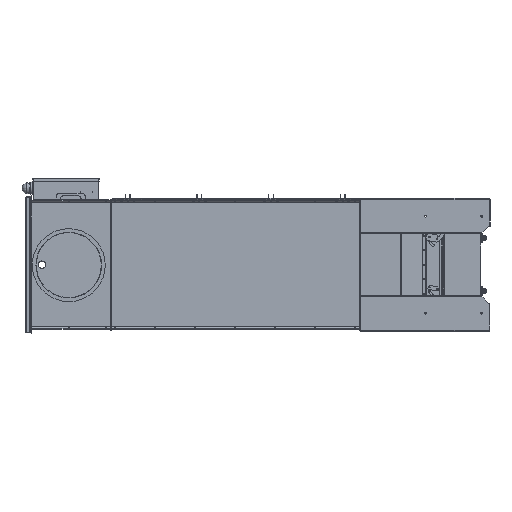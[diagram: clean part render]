
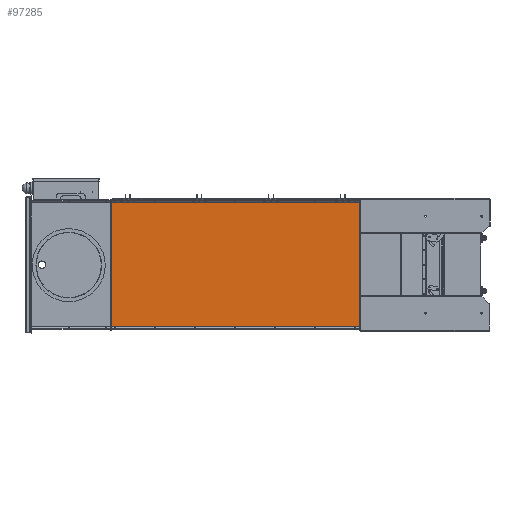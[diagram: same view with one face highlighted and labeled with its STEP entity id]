
A CAD part, left-side view. The second image highlights one B-rep face of the part: STEP entity #97285.
In plain terms, the highlighted planar face has unit normal (-1, 0, 0).
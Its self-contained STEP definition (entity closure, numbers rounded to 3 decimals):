
#3011=PLANE('',#103394);
#6805=FACE_OUTER_BOUND('',#12224,.T.);
#12224=EDGE_LOOP('',(#69337,#69338,#69339,#69340,#69341,#69342,#69343,#69344,
#69345,#69346,#69347,#69348));
#22960=LINE('',#147167,#32189);
#22964=LINE('',#147175,#32193);
#22978=LINE('',#147206,#32207);
#22994=LINE('',#147238,#32223);
#23007=LINE('',#147273,#32236);
#23008=LINE('',#147276,#32237);
#23009=LINE('',#147278,#32238);
#23010=LINE('',#147280,#32239);
#23011=LINE('',#147282,#32240);
#23012=LINE('',#147284,#32241);
#23013=LINE('',#147286,#32242);
#23014=LINE('',#147287,#32243);
#32189=VECTOR('',#115745,1000.);
#32193=VECTOR('',#115753,1000.);
#32207=VECTOR('',#115779,1000.);
#32223=VECTOR('',#115809,1000.);
#32236=VECTOR('',#115842,1000.);
#32237=VECTOR('',#115847,1000.);
#32238=VECTOR('',#115848,1000.);
#32239=VECTOR('',#115849,1000.);
#32240=VECTOR('',#115850,1000.);
#32241=VECTOR('',#115851,1000.);
#32242=VECTOR('',#115852,1000.);
#32243=VECTOR('',#115853,1000.);
#42272=VERTEX_POINT('',#147152);
#42279=VERTEX_POINT('',#147165);
#42281=VERTEX_POINT('',#147174);
#42292=VERTEX_POINT('',#147205);
#42301=VERTEX_POINT('',#147233);
#42312=VERTEX_POINT('',#147270);
#42313=VERTEX_POINT('',#147272);
#42314=VERTEX_POINT('',#147277);
#42315=VERTEX_POINT('',#147279);
#42316=VERTEX_POINT('',#147281);
#42317=VERTEX_POINT('',#147283);
#42318=VERTEX_POINT('',#147285);
#52657=EDGE_CURVE('',#42272,#42279,#22960,.T.);
#52661=EDGE_CURVE('',#42281,#42272,#22964,.T.);
#52677=EDGE_CURVE('',#42281,#42292,#22978,.T.);
#52695=EDGE_CURVE('',#42301,#42292,#22994,.T.);
#52712=EDGE_CURVE('',#42312,#42313,#23007,.F.);
#52714=EDGE_CURVE('',#42312,#42301,#23008,.T.);
#52715=EDGE_CURVE('',#42314,#42279,#23009,.F.);
#52716=EDGE_CURVE('',#42314,#42315,#23010,.T.);
#52717=EDGE_CURVE('',#42315,#42316,#23011,.T.);
#52718=EDGE_CURVE('',#42317,#42316,#23012,.T.);
#52719=EDGE_CURVE('',#42317,#42318,#23013,.T.);
#52720=EDGE_CURVE('',#42318,#42313,#23014,.T.);
#69337=ORIENTED_EDGE('',*,*,#52712,.F.);
#69338=ORIENTED_EDGE('',*,*,#52714,.T.);
#69339=ORIENTED_EDGE('',*,*,#52695,.T.);
#69340=ORIENTED_EDGE('',*,*,#52677,.F.);
#69341=ORIENTED_EDGE('',*,*,#52661,.T.);
#69342=ORIENTED_EDGE('',*,*,#52657,.T.);
#69343=ORIENTED_EDGE('',*,*,#52715,.F.);
#69344=ORIENTED_EDGE('',*,*,#52716,.T.);
#69345=ORIENTED_EDGE('',*,*,#52717,.T.);
#69346=ORIENTED_EDGE('',*,*,#52718,.F.);
#69347=ORIENTED_EDGE('',*,*,#52719,.T.);
#69348=ORIENTED_EDGE('',*,*,#52720,.T.);
#97285=ADVANCED_FACE('',(#6805),#3011,.T.);
#103394=AXIS2_PLACEMENT_3D('',#147275,#115845,#115846);
#115745=DIRECTION('',(0.,0.,1.));
#115753=DIRECTION('',(0.,1.,0.));
#115779=DIRECTION('',(0.,0.,-1.));
#115809=DIRECTION('',(0.,-1.,0.));
#115842=DIRECTION('',(0.,-1.,0.));
#115845=DIRECTION('center_axis',(-1.,0.,0.));
#115846=DIRECTION('ref_axis',(0.,1.,0.));
#115847=DIRECTION('',(0.,0.,1.));
#115848=DIRECTION('',(0.,1.,0.));
#115849=DIRECTION('',(0.,0.,-1.));
#115850=DIRECTION('',(0.,1.,0.));
#115851=DIRECTION('',(0.,0.,1.));
#115852=DIRECTION('',(0.,-1.,0.));
#115853=DIRECTION('',(0.,0.,-1.));
#147152=CARTESIAN_POINT('',(-449.616,629.062,297.156));
#147165=CARTESIAN_POINT('',(-449.616,629.062,297.469));
#147167=CARTESIAN_POINT('',(-449.616,629.062,-190.021));
#147174=CARTESIAN_POINT('',(-449.616,628.75,297.156));
#147175=CARTESIAN_POINT('',(-449.616,625.937,297.156));
#147205=CARTESIAN_POINT('',(-449.616,628.75,-297.006));
#147206=CARTESIAN_POINT('',(-449.616,628.75,-149.925));
#147233=CARTESIAN_POINT('',(-449.616,629.062,-297.006));
#147238=CARTESIAN_POINT('',(-449.616,625.937,-297.006));
#147270=CARTESIAN_POINT('',(-449.616,629.062,-297.319));
#147272=CARTESIAN_POINT('',(-449.616,1817.437,-297.319));
#147273=CARTESIAN_POINT('',(-449.616,1316.23,-297.319));
#147275=CARTESIAN_POINT('Origin',(-449.616,817.625,-149.925));
#147276=CARTESIAN_POINT('',(-449.616,629.062,109.979));
#147277=CARTESIAN_POINT('',(-449.616,1817.437,297.469));
#147278=CARTESIAN_POINT('',(-449.616,817.937,297.469));
#147279=CARTESIAN_POINT('',(-449.616,1817.437,297.156));
#147280=CARTESIAN_POINT('',(-449.616,1817.437,-190.021));
#147281=CARTESIAN_POINT('',(-449.616,1817.75,297.156));
#147282=CARTESIAN_POINT('',(-449.616,1318.937,297.156));
#147283=CARTESIAN_POINT('',(-449.616,1817.75,-297.006));
#147284=CARTESIAN_POINT('',(-449.616,1817.75,-149.925));
#147285=CARTESIAN_POINT('',(-449.616,1817.437,-297.006));
#147286=CARTESIAN_POINT('',(-449.616,1318.938,-297.006));
#147287=CARTESIAN_POINT('',(-449.616,1817.437,109.979));
